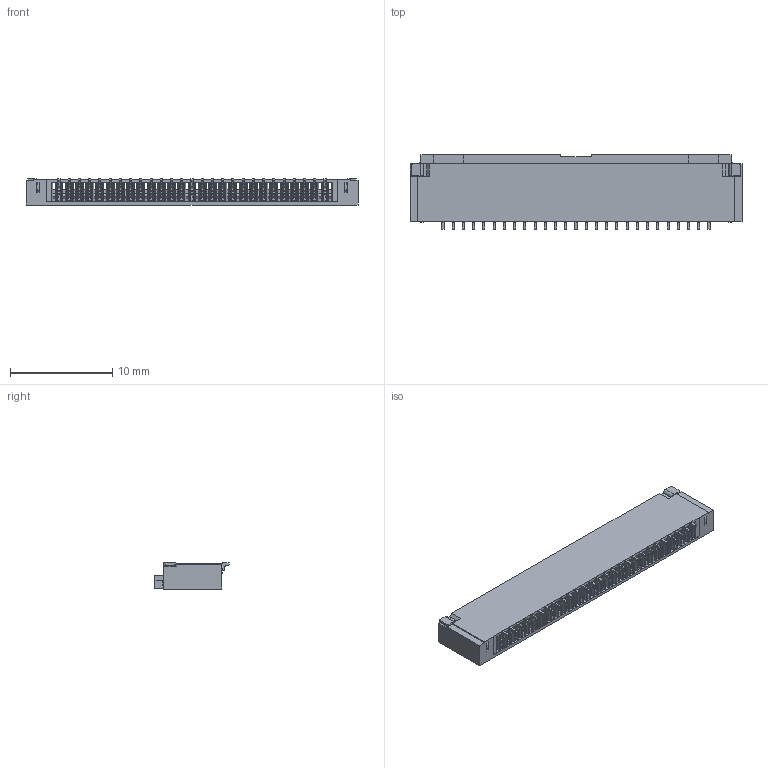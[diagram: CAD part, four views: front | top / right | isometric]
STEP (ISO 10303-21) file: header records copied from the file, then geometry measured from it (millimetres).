
FILE_DESCRIPTION((''),'2;1');
FILE_NAME('PRT0028','2025-05-22T',('13532'),(''),'PRO/ENGINEER BY PARAMETRIC TECHNOLOGY CORPORATION, 2015070','PRO/ENGINEER BY PARAMETRIC TECHNOLOGY CORPORATION, 2015070','');
FILE_SCHEMA(('CONFIG_CONTROL_DESIGN'));
Products named in the file (1): PRT0028
Bounding box: 32.45 x 7.25 x 2.55 mm (x, y, z)
Volume: 308.1 mm3; surface area: 1863.4 mm2
Topology: 1 solids, 1 shells, 3527 faces, 10891 edges, 6860 vertices
Faces by surface type: plane 1815, cylinder 1313, sphere 216, torus 110, extrusion 71, bspline 2
Entity records: 124433 total; most frequent: CARTESIAN_POINT 27314, ORIENTED_EDGE 21350, DIRECTION 19732, EDGE_CURVE 10675, VECTOR 7252, LINE 7181, VERTEX_POINT 6860, AXIS2_PLACEMENT_3D 6240
